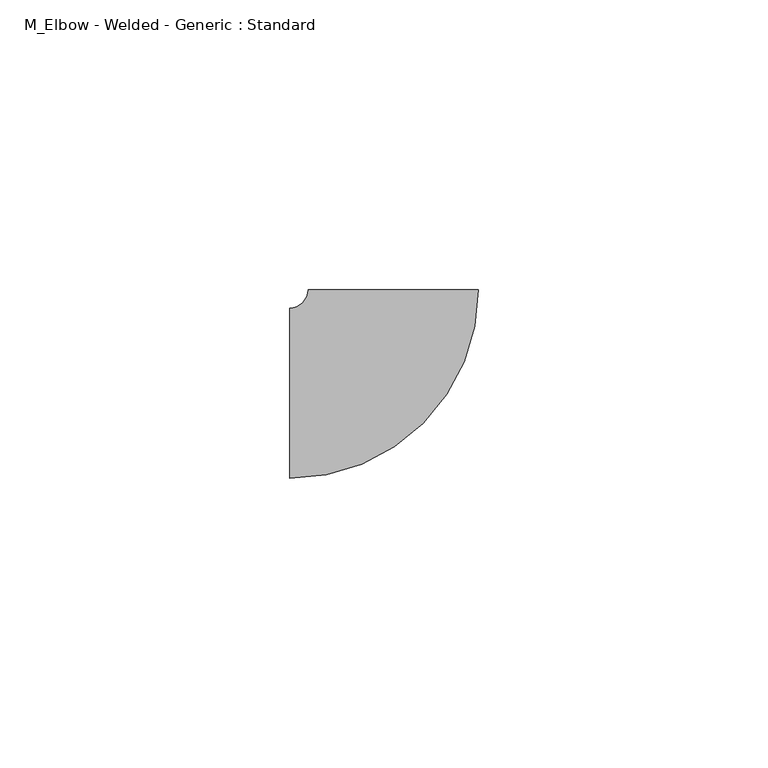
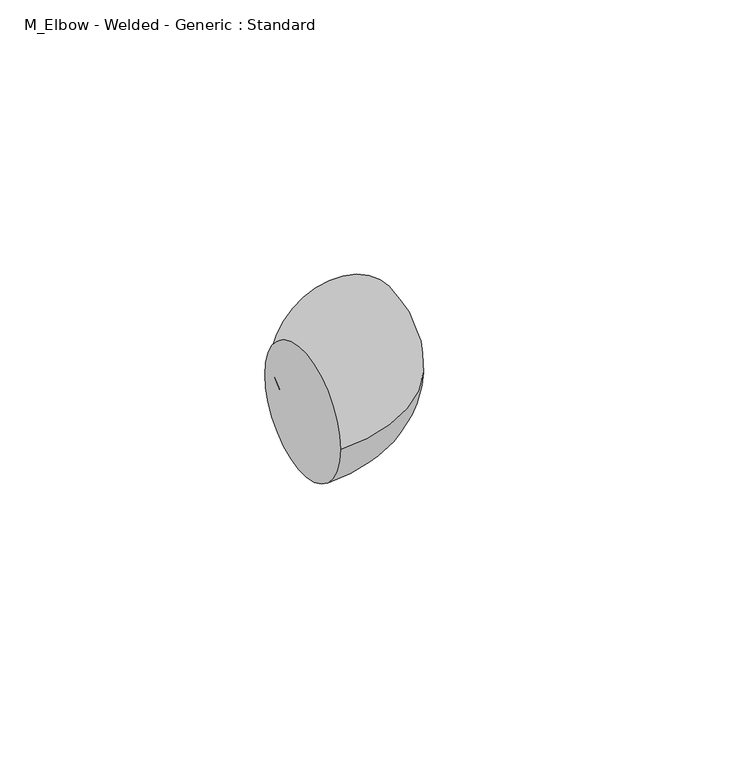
"""IFC4 building model written with IfcOpenShell, lengths in millimetres: pipe fitting geometry, M_Elbow - Welded - Generic : Standard."""

from ifc_helpers import new_model, si_unit, point, frame, origin, place, context, project, spatial, circle_curve, ellipse_curve, trimmed, source, transform, mapped, element, save
from ifc_brep_helpers import plane_surface, revolved_surface, advanced_brep


def m_elbow_welded_generic_standard_fc43898e(model_context):
    return source(origin(), model_context, "Body", "AdvancedBrep", [
        advanced_brep(
        [(-17.9089944, -14.7089844, 0.0), (-17.9089944, 14.7089844, 0.0), (14.7089744, 17.9090026, 0.0), (-14.7089944, 17.9089862, 0.0)],
        [
            (0, 1, circle_curve(frame((-17.9089944, 0.0, 0.0), z_axis=(-1.0, 0.0, 0.0), x_axis=(0.0, 1.0, 0.0)), 14.7089844)),
            (1, 0, circle_curve(frame((-17.9089944, 0.0, 0.0), z_axis=(-1.0, 0.0, 0.0), x_axis=(0.0, 1.0, 0.0)), 14.7089844)),
            (2, 3, circle_curve(frame((-1e-05, 17.9089944, 0.0), z_axis=(-5.574282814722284e-07, 0.9999999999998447, 0.0), x_axis=(-0.9999999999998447, -5.574282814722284e-07, 0.0)), 14.7089844)),
            (3, 2, circle_curve(frame((-1e-05, 17.9089944, 0.0), z_axis=(-5.574282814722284e-07, 0.9999999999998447, 0.0), x_axis=(-0.9999999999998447, -5.574282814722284e-07, 0.0)), 14.7089844)),
            (3, 1, circle_curve(frame((-17.9089944, 17.9089844, 0.0), z_axis=(0.0, 0.0, -1.0), x_axis=(0.0, -1.0, 0.0)), 3.2)),
            (0, 2, circle_curve(frame((-17.9089944, 17.9089844, 0.0), z_axis=(0.0, 0.0, 1.0), x_axis=(0.0, -1.0, 0.0)), 32.6179688)),
        ],
        [
            plane_surface(frame((-17.9089944, 0.0, 0.0), z_axis=(-1.0, 0.0, 0.0), x_axis=(0.0, 0.0, 1.0))),
            plane_surface(frame((-1e-05, 17.9089944, 0.0), z_axis=(-5.574282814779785e-07, 0.9999999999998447, 0.0), x_axis=(0.0, 0.0, 1.0))),
            revolved_surface(trimmed(ellipse_curve(frame((-17.9089944, 0.0, 0.0), z_axis=(-1.0, 0.0, 0.0), x_axis=(0.0, 1.0, 0.0)), 14.7089844, 14.7089844), [point((-17.9089944, -14.7089844, 0.0))], [point((-17.9089944, 14.7089844, 0.0))], True, "CARTESIAN"), (-17.9089944, 17.9089844, 0.0), (0.0, 0.0, 1.0)),
            revolved_surface(trimmed(ellipse_curve(frame((-17.9089944, 0.0, 0.0), z_axis=(-1.0, 0.0, 0.0), x_axis=(0.0, 1.0, 0.0)), 14.7089844, 14.7089844), [point((-17.9089944, 14.7089844, 0.0))], [point((-17.9089944, -14.7089844, 0.0))], True, "CARTESIAN"), (-17.9089944, 17.9089844, 0.0), (0.0, 0.0, 1.0)),
        ],
        [
            (0, [[1, 2]]),
            (1, [[3, 4]]),
            (2, [[5, -1, 6, -4]]),
            (3, [[-6, -2, -5, -3]]),
        ],
    ),
    ])


if __name__ == "__main__":
    model = new_model("IFC4")
    model_context = context("Model", 3, world=origin())
    ifc_project = project(units=[si_unit("LENGTHUNIT", "METRE", prefix="MILLI")], contexts=[model_context])
    site = spatial("IfcSite", under=ifc_project)
    building = spatial("IfcBuilding", under=site)
    placement = place(None, origin())
    m_elbow_welded_generic_standard_shape = m_elbow_welded_generic_standard_fc43898e(model_context)
    element("IfcPipeFitting", 1, ObjectType="M_Elbow - Welded - Generic : Standard", at=placement, inside=building, context=model_context, shape_type="MappedRepresentation", body=[
        mapped(m_elbow_welded_generic_standard_shape, transform((0.0, 0.0, 0.0), x_axis=(1.0, 0.0, 0.0), y_axis=(0.0, 1.0, 0.0), z_axis=(0.0, 0.0, 1.0))),
    ])
    save(model, "model.ifc")
